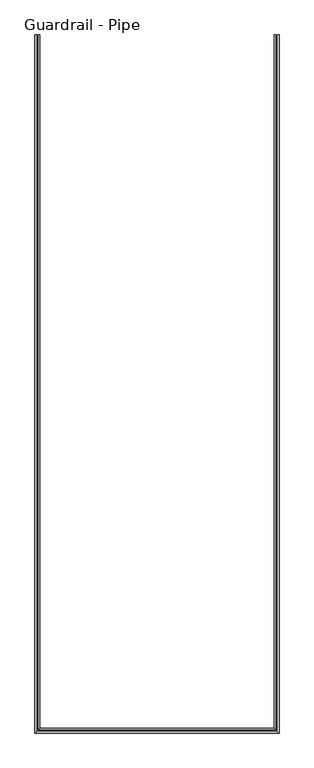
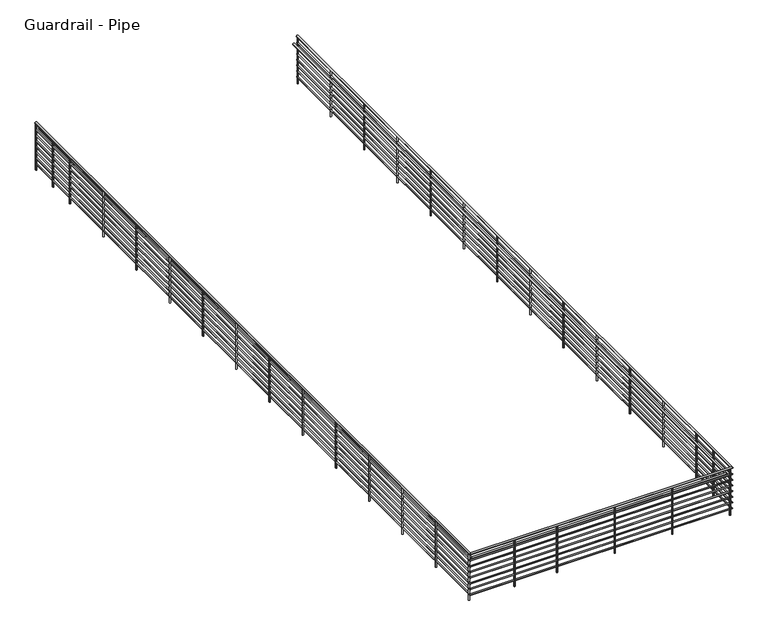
"""IFC4 building model written with IfcOpenShell, lengths in millimetres: railing geometry, Guardrail - Pipe."""

from ifc_helpers import new_model, si_unit, point, frame, frame_2d, origin, place, context, project, spatial, circle_curve, ellipse_curve, trimmed, segment, composite_curve, outline, extrude, source, transform, mapped, element, save
from ifc_brep_helpers import plane_surface, cylinder_surface, advanced_brep


def guardrail_pipe_0f17843e(model_context):
    return source(origin(), model_context, "Body", "SolidModel", [
        advanced_brep(
        [(-4524.1939612, 9152.359643, 13239.75), (-4486.0939612, 9152.359643, 13239.75), (-4524.1939612, -6792.490357, 13239.75), (-4486.0939612, -6754.390357, 13239.75), (1051.1060388, -6792.490357, 13239.75), (1013.0060388, -6754.390357, 13239.75), (1051.1060388, 9152.359643, 13239.75), (1013.0060388, 9152.359643, 13239.75)],
        [
            (0, 1, circle_curve(frame((-4505.1439612, 9152.359643, 13239.75), z_axis=(0.0, 1.0, 0.0), x_axis=(1.0, 0.0, 0.0)), 19.05)),
            (1, 0, circle_curve(frame((-4505.1439612, 9152.359643, 13239.75), z_axis=(0.0, 1.0, 0.0), x_axis=(1.0, 0.0, 0.0)), 19.05)),
            (0, 2),
            (2, 3, ellipse_curve(frame((-4505.1439612, -6773.440357, 13239.75), z_axis=(-0.7071067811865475, 0.7071067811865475, 0.0), x_axis=(0.7071067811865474, 0.7071067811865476, 0.0)), 26.9407684, 19.05)),
            (3, 1),
            (3, 2, ellipse_curve(frame((-4505.1439612, -6773.440357, 13239.75), z_axis=(-0.7071067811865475, 0.7071067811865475, 0.0), x_axis=(0.7071067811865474, 0.7071067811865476, 0.0)), 26.9407684, 19.05)),
            (2, 4),
            (4, 5, ellipse_curve(frame((1032.0560388, -6773.440357, 13239.75), z_axis=(-0.7071067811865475, -0.7071067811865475, 0.0), x_axis=(-0.7071067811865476, 0.7071067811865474, 0.0)), 26.9407684, 19.05)),
            (5, 3),
            (5, 4, ellipse_curve(frame((1032.0560388, -6773.440357, 13239.75), z_axis=(-0.7071067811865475, -0.7071067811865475, 0.0), x_axis=(-0.7071067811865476, 0.7071067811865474, 0.0)), 26.9407684, 19.05)),
            (6, 7, circle_curve(frame((1032.0560388, 9152.359643, 13239.75), z_axis=(0.0, 1.0, 0.0), x_axis=(-1.0, 0.0, 0.0)), 19.05)),
            (7, 6, circle_curve(frame((1032.0560388, 9152.359643, 13239.75), z_axis=(0.0, 1.0, 0.0), x_axis=(-1.0, 0.0, 0.0)), 19.05)),
            (4, 6),
            (7, 5),
        ],
        [
            plane_surface(frame((-4505.1439612, 9152.359643, 13258.8), z_axis=(0.0, 1.0, 0.0), x_axis=(0.0, 0.0, -1.0))),
            cylinder_surface(frame((-4505.1439612, 9152.359643, 13239.75), z_axis=(0.0, 1.0, 0.0), x_axis=(1.0, 0.0, 0.0)), 19.05),
            cylinder_surface(frame((-4505.1439612, -6773.440357, 13239.75), z_axis=(-1.0, 0.0, 0.0), x_axis=(0.0, 1.0, 0.0)), 19.05),
            plane_surface(frame((1032.0560388, 9152.359643, 13258.8), z_axis=(0.0, 1.0, 0.0), x_axis=(0.0, 0.0, 1.0))),
            cylinder_surface(frame((1032.0560388, -6773.440357, 13239.75), z_axis=(0.0, -1.0, 0.0), x_axis=(-1.0, 0.0, 0.0)), 19.05),
        ],
        [
            (0, [[1, 2]]),
            (1, [[-1, 3, 4, 5]]),
            (1, [[-2, -5, 6, -3]]),
            (2, [[-4, 7, 8, 9]]),
            (2, [[-6, -9, 10, -7]]),
            (3, [[11, 12]]),
            (4, [[-8, 13, -12, 14]]),
            (4, [[-10, -14, -11, -13]]),
        ],
    ),
        advanced_brep(
        [(-4517.8439612, 9152.359643, 13093.7), (-4492.4439612, 9152.359643, 13093.7), (-4517.8439612, -6786.140357, 13093.7), (-4492.4439612, -6760.740357, 13093.7), (1044.7560388, -6786.140357, 13093.7), (1019.3560388, -6760.740357, 13093.7), (1044.7560388, 9152.359643, 13093.7), (1019.3560388, 9152.359643, 13093.7)],
        [
            (0, 1, circle_curve(frame((-4505.1439612, 9152.359643, 13093.7), z_axis=(0.0, 1.0, 0.0), x_axis=(1.0, 0.0, 0.0)), 12.7)),
            (1, 0, circle_curve(frame((-4505.1439612, 9152.359643, 13093.7), z_axis=(0.0, 1.0, 0.0), x_axis=(1.0, 0.0, 0.0)), 12.7)),
            (0, 2),
            (2, 3, ellipse_curve(frame((-4505.1439612, -6773.440357, 13093.7), z_axis=(-0.7071067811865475, 0.7071067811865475, 0.0), x_axis=(0.7071067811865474, 0.7071067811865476, 0.0)), 17.9605122, 12.7)),
            (3, 1),
            (3, 2, ellipse_curve(frame((-4505.1439612, -6773.440357, 13093.7), z_axis=(-0.7071067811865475, 0.7071067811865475, 0.0), x_axis=(0.7071067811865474, 0.7071067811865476, 0.0)), 17.9605122, 12.7)),
            (2, 4),
            (4, 5, ellipse_curve(frame((1032.0560388, -6773.440357, 13093.7), z_axis=(-0.7071067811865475, -0.7071067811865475, 0.0), x_axis=(-0.7071067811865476, 0.7071067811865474, 0.0)), 17.9605122, 12.7)),
            (5, 3),
            (5, 4, ellipse_curve(frame((1032.0560388, -6773.440357, 13093.7), z_axis=(-0.7071067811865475, -0.7071067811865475, 0.0), x_axis=(-0.7071067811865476, 0.7071067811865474, 0.0)), 17.9605122, 12.7)),
            (6, 7, circle_curve(frame((1032.0560388, 9152.359643, 13093.7), z_axis=(0.0, 1.0, 0.0), x_axis=(-1.0, 0.0, 0.0)), 12.7)),
            (7, 6, circle_curve(frame((1032.0560388, 9152.359643, 13093.7), z_axis=(0.0, 1.0, 0.0), x_axis=(-1.0, 0.0, 0.0)), 12.7)),
            (4, 6),
            (7, 5),
        ],
        [
            plane_surface(frame((-4505.1439612, 9152.359643, 13106.4), z_axis=(0.0, 1.0, 0.0), x_axis=(0.0, 0.0, -1.0))),
            cylinder_surface(frame((-4505.1439612, 9152.359643, 13093.7), z_axis=(0.0, 1.0, 0.0), x_axis=(1.0, 0.0, 0.0)), 12.7),
            cylinder_surface(frame((-4505.1439612, -6773.440357, 13093.7), z_axis=(-1.0, 0.0, 0.0), x_axis=(0.0, 1.0, 0.0)), 12.7),
            plane_surface(frame((1032.0560388, 9152.359643, 13106.4), z_axis=(0.0, 1.0, 0.0), x_axis=(0.0, 0.0, 1.0))),
            cylinder_surface(frame((1032.0560388, -6773.440357, 13093.7), z_axis=(0.0, -1.0, 0.0), x_axis=(-1.0, 0.0, 0.0)), 12.7),
        ],
        [
            (0, [[1, 2]]),
            (1, [[-1, 3, 4, 5]]),
            (1, [[-2, -5, 6, -3]]),
            (2, [[-4, 7, 8, 9]]),
            (2, [[-6, -9, 10, -7]]),
            (3, [[11, 12]]),
            (4, [[-8, 13, -12, 14]]),
            (4, [[-10, -14, -11, -13]]),
        ],
    ),
        advanced_brep(
        [(-4447.9939612, 9152.359643, 13087.35), (-4409.8939612, 9152.359643, 13087.35), (-4447.9939612, -6716.290357, 13087.35), (-4409.8939612, -6678.190357, 13087.35), (974.9060388, -6716.290357, 13087.35), (936.8060388, -6678.190357, 13087.35), (974.9060388, 9152.359643, 13087.35), (936.8060388, 9152.359643, 13087.35)],
        [
            (0, 1, circle_curve(frame((-4428.9439612, 9152.359643, 13087.35), z_axis=(0.0, 1.0, 0.0), x_axis=(1.0, 0.0, 0.0)), 19.05)),
            (1, 0, circle_curve(frame((-4428.9439612, 9152.359643, 13087.35), z_axis=(0.0, 1.0, 0.0), x_axis=(1.0, 0.0, 0.0)), 19.05)),
            (0, 2),
            (2, 3, ellipse_curve(frame((-4428.9439612, -6697.240357, 13087.35), z_axis=(-0.7071067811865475, 0.7071067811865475, 0.0), x_axis=(0.7071067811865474, 0.7071067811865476, 0.0)), 26.9407684, 19.05)),
            (3, 1),
            (3, 2, ellipse_curve(frame((-4428.9439612, -6697.240357, 13087.35), z_axis=(-0.7071067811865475, 0.7071067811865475, 0.0), x_axis=(0.7071067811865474, 0.7071067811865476, 0.0)), 26.9407684, 19.05)),
            (2, 4),
            (4, 5, ellipse_curve(frame((955.8560388, -6697.240357, 13087.35), z_axis=(-0.7071067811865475, -0.7071067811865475, 0.0), x_axis=(-0.7071067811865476, 0.7071067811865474, 0.0)), 26.9407684, 19.05)),
            (5, 3),
            (5, 4, ellipse_curve(frame((955.8560388, -6697.240357, 13087.35), z_axis=(-0.7071067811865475, -0.7071067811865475, 0.0), x_axis=(-0.7071067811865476, 0.7071067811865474, 0.0)), 26.9407684, 19.05)),
            (6, 7, circle_curve(frame((955.8560388, 9152.359643, 13087.35), z_axis=(0.0, 1.0, 0.0), x_axis=(-1.0, 0.0, 0.0)), 19.05)),
            (7, 6, circle_curve(frame((955.8560388, 9152.359643, 13087.35), z_axis=(0.0, 1.0, 0.0), x_axis=(-1.0, 0.0, 0.0)), 19.05)),
            (4, 6),
            (7, 5),
        ],
        [
            plane_surface(frame((-4428.9439612, 9152.359643, 13106.4), z_axis=(0.0, 1.0, 0.0), x_axis=(0.0, 0.0, -1.0))),
            cylinder_surface(frame((-4428.9439612, 9152.359643, 13087.35), z_axis=(0.0, 1.0, 0.0), x_axis=(1.0, 0.0, 0.0)), 19.05),
            cylinder_surface(frame((-4428.9439612, -6697.240357, 13087.35), z_axis=(-1.0, 0.0, 0.0), x_axis=(0.0, 1.0, 0.0)), 19.05),
            plane_surface(frame((955.8560388, 9152.359643, 13106.4), z_axis=(0.0, 1.0, 0.0), x_axis=(0.0, 0.0, 1.0))),
            cylinder_surface(frame((955.8560388, -6697.240357, 13087.35), z_axis=(0.0, -1.0, 0.0), x_axis=(-1.0, 0.0, 0.0)), 19.05),
        ],
        [
            (0, [[1, 2]]),
            (1, [[-1, 3, 4, 5]]),
            (1, [[-2, -5, 6, -3]]),
            (2, [[-4, 7, 8, 9]]),
            (2, [[-6, -9, 10, -7]]),
            (3, [[11, 12]]),
            (4, [[-8, 13, -12, 14]]),
            (4, [[-10, -14, -11, -13]]),
        ],
    ),
        advanced_brep(
        [(-4517.8439612, 9152.359643, 12966.7), (-4492.4439612, 9152.359643, 12966.7), (-4517.8439612, -6786.140357, 12966.7), (-4492.4439612, -6760.740357, 12966.7), (1044.7560388, -6786.140357, 12966.7), (1019.3560388, -6760.740357, 12966.7), (1044.7560388, 9152.359643, 12966.7), (1019.3560388, 9152.359643, 12966.7)],
        [
            (0, 1, circle_curve(frame((-4505.1439612, 9152.359643, 12966.7), z_axis=(0.0, 1.0, 0.0), x_axis=(1.0, 0.0, 0.0)), 12.7)),
            (1, 0, circle_curve(frame((-4505.1439612, 9152.359643, 12966.7), z_axis=(0.0, 1.0, 0.0), x_axis=(1.0, 0.0, 0.0)), 12.7)),
            (0, 2),
            (2, 3, ellipse_curve(frame((-4505.1439612, -6773.440357, 12966.7), z_axis=(-0.7071067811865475, 0.7071067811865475, 0.0), x_axis=(0.7071067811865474, 0.7071067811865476, 0.0)), 17.9605122, 12.7)),
            (3, 1),
            (3, 2, ellipse_curve(frame((-4505.1439612, -6773.440357, 12966.7), z_axis=(-0.7071067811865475, 0.7071067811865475, 0.0), x_axis=(0.7071067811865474, 0.7071067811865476, 0.0)), 17.9605122, 12.7)),
            (2, 4),
            (4, 5, ellipse_curve(frame((1032.0560388, -6773.440357, 12966.7), z_axis=(-0.7071067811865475, -0.7071067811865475, 0.0), x_axis=(-0.7071067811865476, 0.7071067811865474, 0.0)), 17.9605122, 12.7)),
            (5, 3),
            (5, 4, ellipse_curve(frame((1032.0560388, -6773.440357, 12966.7), z_axis=(-0.7071067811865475, -0.7071067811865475, 0.0), x_axis=(-0.7071067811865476, 0.7071067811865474, 0.0)), 17.9605122, 12.7)),
            (6, 7, circle_curve(frame((1032.0560388, 9152.359643, 12966.7), z_axis=(0.0, 1.0, 0.0), x_axis=(-1.0, 0.0, 0.0)), 12.7)),
            (7, 6, circle_curve(frame((1032.0560388, 9152.359643, 12966.7), z_axis=(0.0, 1.0, 0.0), x_axis=(-1.0, 0.0, 0.0)), 12.7)),
            (4, 6),
            (7, 5),
        ],
        [
            plane_surface(frame((-4505.1439612, 9152.359643, 12979.4), z_axis=(0.0, 1.0, 0.0), x_axis=(0.0, 0.0, -1.0))),
            cylinder_surface(frame((-4505.1439612, 9152.359643, 12966.7), z_axis=(0.0, 1.0, 0.0), x_axis=(1.0, 0.0, 0.0)), 12.7),
            cylinder_surface(frame((-4505.1439612, -6773.440357, 12966.7), z_axis=(-1.0, 0.0, 0.0), x_axis=(0.0, 1.0, 0.0)), 12.7),
            plane_surface(frame((1032.0560388, 9152.359643, 12979.4), z_axis=(0.0, 1.0, 0.0), x_axis=(0.0, 0.0, 1.0))),
            cylinder_surface(frame((1032.0560388, -6773.440357, 12966.7), z_axis=(0.0, -1.0, 0.0), x_axis=(-1.0, 0.0, 0.0)), 12.7),
        ],
        [
            (0, [[1, 2]]),
            (1, [[-1, 3, 4, 5]]),
            (1, [[-2, -5, 6, -3]]),
            (2, [[-4, 7, 8, 9]]),
            (2, [[-6, -9, 10, -7]]),
            (3, [[11, 12]]),
            (4, [[-8, 13, -12, 14]]),
            (4, [[-10, -14, -11, -13]]),
        ],
    ),
        advanced_brep(
        [(-4517.8439612, 9152.359643, 12839.7), (-4492.4439612, 9152.359643, 12839.7), (-4517.8439612, -6786.140357, 12839.7), (-4492.4439612, -6760.740357, 12839.7), (1044.7560388, -6786.140357, 12839.7), (1019.3560388, -6760.740357, 12839.7), (1044.7560388, 9152.359643, 12839.7), (1019.3560388, 9152.359643, 12839.7)],
        [
            (0, 1, circle_curve(frame((-4505.1439612, 9152.359643, 12839.7), z_axis=(0.0, 1.0, 0.0), x_axis=(1.0, 0.0, 0.0)), 12.7)),
            (1, 0, circle_curve(frame((-4505.1439612, 9152.359643, 12839.7), z_axis=(0.0, 1.0, 0.0), x_axis=(1.0, 0.0, 0.0)), 12.7)),
            (0, 2),
            (2, 3, ellipse_curve(frame((-4505.1439612, -6773.440357, 12839.7), z_axis=(-0.7071067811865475, 0.7071067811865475, 0.0), x_axis=(0.7071067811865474, 0.7071067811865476, 0.0)), 17.9605122, 12.7)),
            (3, 1),
            (3, 2, ellipse_curve(frame((-4505.1439612, -6773.440357, 12839.7), z_axis=(-0.7071067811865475, 0.7071067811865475, 0.0), x_axis=(0.7071067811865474, 0.7071067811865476, 0.0)), 17.9605122, 12.7)),
            (2, 4),
            (4, 5, ellipse_curve(frame((1032.0560388, -6773.440357, 12839.7), z_axis=(-0.7071067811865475, -0.7071067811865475, 0.0), x_axis=(-0.7071067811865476, 0.7071067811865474, 0.0)), 17.9605122, 12.7)),
            (5, 3),
            (5, 4, ellipse_curve(frame((1032.0560388, -6773.440357, 12839.7), z_axis=(-0.7071067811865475, -0.7071067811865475, 0.0), x_axis=(-0.7071067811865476, 0.7071067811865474, 0.0)), 17.9605122, 12.7)),
            (6, 7, circle_curve(frame((1032.0560388, 9152.359643, 12839.7), z_axis=(0.0, 1.0, 0.0), x_axis=(-1.0, 0.0, 0.0)), 12.7)),
            (7, 6, circle_curve(frame((1032.0560388, 9152.359643, 12839.7), z_axis=(0.0, 1.0, 0.0), x_axis=(-1.0, 0.0, 0.0)), 12.7)),
            (4, 6),
            (7, 5),
        ],
        [
            plane_surface(frame((-4505.1439612, 9152.359643, 12852.4), z_axis=(0.0, 1.0, 0.0), x_axis=(0.0, 0.0, -1.0))),
            cylinder_surface(frame((-4505.1439612, 9152.359643, 12839.7), z_axis=(0.0, 1.0, 0.0), x_axis=(1.0, 0.0, 0.0)), 12.7),
            cylinder_surface(frame((-4505.1439612, -6773.440357, 12839.7), z_axis=(-1.0, 0.0, 0.0), x_axis=(0.0, 1.0, 0.0)), 12.7),
            plane_surface(frame((1032.0560388, 9152.359643, 12852.4), z_axis=(0.0, 1.0, 0.0), x_axis=(0.0, 0.0, 1.0))),
            cylinder_surface(frame((1032.0560388, -6773.440357, 12839.7), z_axis=(0.0, -1.0, 0.0), x_axis=(-1.0, 0.0, 0.0)), 12.7),
        ],
        [
            (0, [[1, 2]]),
            (1, [[-1, 3, 4, 5]]),
            (1, [[-2, -5, 6, -3]]),
            (2, [[-4, 7, 8, 9]]),
            (2, [[-6, -9, 10, -7]]),
            (3, [[11, 12]]),
            (4, [[-8, 13, -12, 14]]),
            (4, [[-10, -14, -11, -13]]),
        ],
    ),
        advanced_brep(
        [(-4517.8439612, 9152.359643, 12712.7), (-4492.4439612, 9152.359643, 12712.7), (-4517.8439612, -6786.140357, 12712.7), (-4492.4439612, -6760.740357, 12712.7), (1044.7560388, -6786.140357, 12712.7), (1019.3560388, -6760.740357, 12712.7), (1044.7560388, 9152.359643, 12712.7), (1019.3560388, 9152.359643, 12712.7)],
        [
            (0, 1, circle_curve(frame((-4505.1439612, 9152.359643, 12712.7), z_axis=(0.0, 1.0, 0.0), x_axis=(1.0, 0.0, 0.0)), 12.7)),
            (1, 0, circle_curve(frame((-4505.1439612, 9152.359643, 12712.7), z_axis=(0.0, 1.0, 0.0), x_axis=(1.0, 0.0, 0.0)), 12.7)),
            (0, 2),
            (2, 3, ellipse_curve(frame((-4505.1439612, -6773.440357, 12712.7), z_axis=(-0.7071067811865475, 0.7071067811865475, 0.0), x_axis=(0.7071067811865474, 0.7071067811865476, 0.0)), 17.9605122, 12.7)),
            (3, 1),
            (3, 2, ellipse_curve(frame((-4505.1439612, -6773.440357, 12712.7), z_axis=(-0.7071067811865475, 0.7071067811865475, 0.0), x_axis=(0.7071067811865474, 0.7071067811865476, 0.0)), 17.9605122, 12.7)),
            (2, 4),
            (4, 5, ellipse_curve(frame((1032.0560388, -6773.440357, 12712.7), z_axis=(-0.7071067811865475, -0.7071067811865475, 0.0), x_axis=(-0.7071067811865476, 0.7071067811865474, 0.0)), 17.9605122, 12.7)),
            (5, 3),
            (5, 4, ellipse_curve(frame((1032.0560388, -6773.440357, 12712.7), z_axis=(-0.7071067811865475, -0.7071067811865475, 0.0), x_axis=(-0.7071067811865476, 0.7071067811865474, 0.0)), 17.9605122, 12.7)),
            (6, 7, circle_curve(frame((1032.0560388, 9152.359643, 12712.7), z_axis=(0.0, 1.0, 0.0), x_axis=(-1.0, 0.0, 0.0)), 12.7)),
            (7, 6, circle_curve(frame((1032.0560388, 9152.359643, 12712.7), z_axis=(0.0, 1.0, 0.0), x_axis=(-1.0, 0.0, 0.0)), 12.7)),
            (4, 6),
            (7, 5),
        ],
        [
            plane_surface(frame((-4505.1439612, 9152.359643, 12725.4), z_axis=(0.0, 1.0, 0.0), x_axis=(0.0, 0.0, -1.0))),
            cylinder_surface(frame((-4505.1439612, 9152.359643, 12712.7), z_axis=(0.0, 1.0, 0.0), x_axis=(1.0, 0.0, 0.0)), 12.7),
            cylinder_surface(frame((-4505.1439612, -6773.440357, 12712.7), z_axis=(-1.0, 0.0, 0.0), x_axis=(0.0, 1.0, 0.0)), 12.7),
            plane_surface(frame((1032.0560388, 9152.359643, 12725.4), z_axis=(0.0, 1.0, 0.0), x_axis=(0.0, 0.0, 1.0))),
            cylinder_surface(frame((1032.0560388, -6773.440357, 12712.7), z_axis=(0.0, -1.0, 0.0), x_axis=(-1.0, 0.0, 0.0)), 12.7),
        ],
        [
            (0, [[1, 2]]),
            (1, [[-1, 3, 4, 5]]),
            (1, [[-2, -5, 6, -3]]),
            (2, [[-4, 7, 8, 9]]),
            (2, [[-6, -9, 10, -7]]),
            (3, [[11, 12]]),
            (4, [[-8, 13, -12, 14]]),
            (4, [[-10, -14, -11, -13]]),
        ],
    ),
        advanced_brep(
        [(-4517.8439612, 9152.359643, 12585.7), (-4492.4439612, 9152.359643, 12585.7), (-4517.8439612, -6786.140357, 12585.7), (-4492.4439612, -6760.740357, 12585.7), (1044.7560388, -6786.140357, 12585.7), (1019.3560388, -6760.740357, 12585.7), (1044.7560388, 9152.359643, 12585.7), (1019.3560388, 9152.359643, 12585.7)],
        [
            (0, 1, circle_curve(frame((-4505.1439612, 9152.359643, 12585.7), z_axis=(0.0, 1.0, 0.0), x_axis=(1.0, 0.0, 0.0)), 12.7)),
            (1, 0, circle_curve(frame((-4505.1439612, 9152.359643, 12585.7), z_axis=(0.0, 1.0, 0.0), x_axis=(1.0, 0.0, 0.0)), 12.7)),
            (0, 2),
            (2, 3, ellipse_curve(frame((-4505.1439612, -6773.440357, 12585.7), z_axis=(-0.7071067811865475, 0.7071067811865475, 0.0), x_axis=(0.7071067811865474, 0.7071067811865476, 0.0)), 17.9605122, 12.7)),
            (3, 1),
            (3, 2, ellipse_curve(frame((-4505.1439612, -6773.440357, 12585.7), z_axis=(-0.7071067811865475, 0.7071067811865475, 0.0), x_axis=(0.7071067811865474, 0.7071067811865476, 0.0)), 17.9605122, 12.7)),
            (2, 4),
            (4, 5, ellipse_curve(frame((1032.0560388, -6773.440357, 12585.7), z_axis=(-0.7071067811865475, -0.7071067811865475, 0.0), x_axis=(-0.7071067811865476, 0.7071067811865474, 0.0)), 17.9605122, 12.7)),
            (5, 3),
            (5, 4, ellipse_curve(frame((1032.0560388, -6773.440357, 12585.7), z_axis=(-0.7071067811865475, -0.7071067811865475, 0.0), x_axis=(-0.7071067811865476, 0.7071067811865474, 0.0)), 17.9605122, 12.7)),
            (6, 7, circle_curve(frame((1032.0560388, 9152.359643, 12585.7), z_axis=(0.0, 1.0, 0.0), x_axis=(-1.0, 0.0, 0.0)), 12.7)),
            (7, 6, circle_curve(frame((1032.0560388, 9152.359643, 12585.7), z_axis=(0.0, 1.0, 0.0), x_axis=(-1.0, 0.0, 0.0)), 12.7)),
            (4, 6),
            (7, 5),
        ],
        [
            plane_surface(frame((-4505.1439612, 9152.359643, 12598.4), z_axis=(0.0, 1.0, 0.0), x_axis=(0.0, 0.0, -1.0))),
            cylinder_surface(frame((-4505.1439612, 9152.359643, 12585.7), z_axis=(0.0, 1.0, 0.0), x_axis=(1.0, 0.0, 0.0)), 12.7),
            cylinder_surface(frame((-4505.1439612, -6773.440357, 12585.7), z_axis=(-1.0, 0.0, 0.0), x_axis=(0.0, 1.0, 0.0)), 12.7),
            plane_surface(frame((1032.0560388, 9152.359643, 12598.4), z_axis=(0.0, 1.0, 0.0), x_axis=(0.0, 0.0, 1.0))),
            cylinder_surface(frame((1032.0560388, -6773.440357, 12585.7), z_axis=(0.0, -1.0, 0.0), x_axis=(-1.0, 0.0, 0.0)), 12.7),
        ],
        [
            (0, [[1, 2]]),
            (1, [[-1, 3, 4, 5]]),
            (1, [[-2, -5, 6, -3]]),
            (2, [[-4, 7, 8, 9]]),
            (2, [[-6, -9, 10, -7]]),
            (3, [[11, 12]]),
            (4, [[-8, 13, -12, 14]]),
            (4, [[-10, -14, -11, -13]]),
        ],
    ),
        advanced_brep(
        [(-4517.8439612, 9152.359643, 12458.7), (-4492.4439612, 9152.359643, 12458.7), (-4517.8439612, -6786.140357, 12458.7), (-4492.4439612, -6760.740357, 12458.7), (1044.7560388, -6786.140357, 12458.7), (1019.3560388, -6760.740357, 12458.7), (1044.7560388, 9152.359643, 12458.7), (1019.3560388, 9152.359643, 12458.7)],
        [
            (0, 1, circle_curve(frame((-4505.1439612, 9152.359643, 12458.7), z_axis=(0.0, 1.0, 0.0), x_axis=(1.0, 0.0, 0.0)), 12.7)),
            (1, 0, circle_curve(frame((-4505.1439612, 9152.359643, 12458.7), z_axis=(0.0, 1.0, 0.0), x_axis=(1.0, 0.0, 0.0)), 12.7)),
            (0, 2),
            (2, 3, ellipse_curve(frame((-4505.1439612, -6773.440357, 12458.7), z_axis=(-0.7071067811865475, 0.7071067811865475, 0.0), x_axis=(0.7071067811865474, 0.7071067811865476, 0.0)), 17.9605122, 12.7)),
            (3, 1),
            (3, 2, ellipse_curve(frame((-4505.1439612, -6773.440357, 12458.7), z_axis=(-0.7071067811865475, 0.7071067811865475, 0.0), x_axis=(0.7071067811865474, 0.7071067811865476, 0.0)), 17.9605122, 12.7)),
            (2, 4),
            (4, 5, ellipse_curve(frame((1032.0560388, -6773.440357, 12458.7), z_axis=(-0.7071067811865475, -0.7071067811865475, 0.0), x_axis=(-0.7071067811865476, 0.7071067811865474, 0.0)), 17.9605122, 12.7)),
            (5, 3),
            (5, 4, ellipse_curve(frame((1032.0560388, -6773.440357, 12458.7), z_axis=(-0.7071067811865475, -0.7071067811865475, 0.0), x_axis=(-0.7071067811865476, 0.7071067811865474, 0.0)), 17.9605122, 12.7)),
            (6, 7, circle_curve(frame((1032.0560388, 9152.359643, 12458.7), z_axis=(0.0, 1.0, 0.0), x_axis=(-1.0, 0.0, 0.0)), 12.7)),
            (7, 6, circle_curve(frame((1032.0560388, 9152.359643, 12458.7), z_axis=(0.0, 1.0, 0.0), x_axis=(-1.0, 0.0, 0.0)), 12.7)),
            (4, 6),
            (7, 5),
        ],
        [
            plane_surface(frame((-4505.1439612, 9152.359643, 12471.4), z_axis=(0.0, 1.0, 0.0), x_axis=(0.0, 0.0, -1.0))),
            cylinder_surface(frame((-4505.1439612, 9152.359643, 12458.7), z_axis=(0.0, 1.0, 0.0), x_axis=(1.0, 0.0, 0.0)), 12.7),
            cylinder_surface(frame((-4505.1439612, -6773.440357, 12458.7), z_axis=(-1.0, 0.0, 0.0), x_axis=(0.0, 1.0, 0.0)), 12.7),
            plane_surface(frame((1032.0560388, 9152.359643, 12471.4), z_axis=(0.0, 1.0, 0.0), x_axis=(0.0, 0.0, 1.0))),
            cylinder_surface(frame((1032.0560388, -6773.440357, 12458.7), z_axis=(0.0, -1.0, 0.0), x_axis=(-1.0, 0.0, 0.0)), 12.7),
        ],
        [
            (0, [[1, 2]]),
            (1, [[-1, 3, 4, 5]]),
            (1, [[-2, -5, 6, -3]]),
            (2, [[-4, 7, 8, 9]]),
            (2, [[-6, -9, 10, -7]]),
            (3, [[11, 12]]),
            (4, [[-8, 13, -12, 14]]),
            (4, [[-10, -14, -11, -13]]),
        ],
    ),
        advanced_brep(
        [(-4517.8439612, 9152.359643, 12331.7), (-4492.4439612, 9152.359643, 12331.7), (-4517.8439612, -6786.140357, 12331.7), (-4492.4439612, -6760.740357, 12331.7), (1044.7560388, -6786.140357, 12331.7), (1019.3560388, -6760.740357, 12331.7), (1044.7560388, 9152.359643, 12331.7), (1019.3560388, 9152.359643, 12331.7)],
        [
            (0, 1, circle_curve(frame((-4505.1439612, 9152.359643, 12331.7), z_axis=(0.0, 1.0, 0.0), x_axis=(1.0, 0.0, 0.0)), 12.7)),
            (1, 0, circle_curve(frame((-4505.1439612, 9152.359643, 12331.7), z_axis=(0.0, 1.0, 0.0), x_axis=(1.0, 0.0, 0.0)), 12.7)),
            (0, 2),
            (2, 3, ellipse_curve(frame((-4505.1439612, -6773.440357, 12331.7), z_axis=(-0.7071067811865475, 0.7071067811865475, 0.0), x_axis=(0.7071067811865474, 0.7071067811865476, 0.0)), 17.9605122, 12.7)),
            (3, 1),
            (3, 2, ellipse_curve(frame((-4505.1439612, -6773.440357, 12331.7), z_axis=(-0.7071067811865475, 0.7071067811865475, 0.0), x_axis=(0.7071067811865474, 0.7071067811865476, 0.0)), 17.9605122, 12.7)),
            (2, 4),
            (4, 5, ellipse_curve(frame((1032.0560388, -6773.440357, 12331.7), z_axis=(-0.7071067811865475, -0.7071067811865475, 0.0), x_axis=(-0.7071067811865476, 0.7071067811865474, 0.0)), 17.9605122, 12.7)),
            (5, 3),
            (5, 4, ellipse_curve(frame((1032.0560388, -6773.440357, 12331.7), z_axis=(-0.7071067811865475, -0.7071067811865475, 0.0), x_axis=(-0.7071067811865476, 0.7071067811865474, 0.0)), 17.9605122, 12.7)),
            (6, 7, circle_curve(frame((1032.0560388, 9152.359643, 12331.7), z_axis=(0.0, 1.0, 0.0), x_axis=(-1.0, 0.0, 0.0)), 12.7)),
            (7, 6, circle_curve(frame((1032.0560388, 9152.359643, 12331.7), z_axis=(0.0, 1.0, 0.0), x_axis=(-1.0, 0.0, 0.0)), 12.7)),
            (4, 6),
            (7, 5),
        ],
        [
            plane_surface(frame((-4505.1439612, 9152.359643, 12344.4), z_axis=(0.0, 1.0, 0.0), x_axis=(0.0, 0.0, -1.0))),
            cylinder_surface(frame((-4505.1439612, 9152.359643, 12331.7), z_axis=(0.0, 1.0, 0.0), x_axis=(1.0, 0.0, 0.0)), 12.7),
            cylinder_surface(frame((-4505.1439612, -6773.440357, 12331.7), z_axis=(-1.0, 0.0, 0.0), x_axis=(0.0, 1.0, 0.0)), 12.7),
            plane_surface(frame((1032.0560388, 9152.359643, 12344.4), z_axis=(0.0, 1.0, 0.0), x_axis=(0.0, 0.0, 1.0))),
            cylinder_surface(frame((1032.0560388, -6773.440357, 12331.7), z_axis=(0.0, -1.0, 0.0), x_axis=(-1.0, 0.0, 0.0)), 12.7),
        ],
        [
            (0, [[1, 2]]),
            (1, [[-1, 3, 4, 5]]),
            (1, [[-2, -5, 6, -3]]),
            (2, [[-4, 7, 8, 9]]),
            (2, [[-6, -9, 10, -7]]),
            (3, [[11, 12]]),
            (4, [[-8, 13, -12, 14]]),
            (4, [[-10, -14, -11, -13]]),
        ],
    ),
        extrude(outline(composite_curve([segment(trimmed(circle_curve(frame_2d((1032.0560388, 9139.9780585)), 12.7), [point((1044.7560388, 9139.9780585))], [point((1019.3560388, 9139.9780585))], False, "CARTESIAN"), True, "CONTINUOUS"), segment(trimmed(circle_curve(frame_2d((1032.0560388, 9139.9780585)), 12.7), [point((1019.3560388, 9139.9780585))], [point((1044.7560388, 9139.9780585))], False, "CARTESIAN"), True, "CONTINUOUS")], self_intersect=False)), frame((0.0, 0.0, 12192.0), z_axis=(0.0, 0.0, 1.0), x_axis=(1.0, 0.0, 0.0)), (0.0, 0.0, 1.0), 1028.7),
        extrude(outline(composite_curve([segment(trimmed(circle_curve(frame_2d((1032.0560388, 7920.7780585)), 12.7), [point((1044.7560388, 7920.7780585))], [point((1019.3560388, 7920.7780585))], False, "CARTESIAN"), True, "CONTINUOUS"), segment(trimmed(circle_curve(frame_2d((1032.0560388, 7920.7780585)), 12.7), [point((1019.3560388, 7920.7780585))], [point((1044.7560388, 7920.7780585))], False, "CARTESIAN"), True, "CONTINUOUS")], self_intersect=False)), frame((0.0, 0.0, 12192.0), z_axis=(0.0, 0.0, 1.0), x_axis=(1.0, 0.0, 0.0)), (0.0, 0.0, 1.0), 1028.7),
        extrude(outline(composite_curve([segment(trimmed(circle_curve(frame_2d((1032.0560388, 6701.5780585)), 12.7), [point((1044.7560388, 6701.5780585))], [point((1019.3560388, 6701.5780585))], False, "CARTESIAN"), True, "CONTINUOUS"), segment(trimmed(circle_curve(frame_2d((1032.0560388, 6701.5780585)), 12.7), [point((1019.3560388, 6701.5780585))], [point((1044.7560388, 6701.5780585))], False, "CARTESIAN"), True, "CONTINUOUS")], self_intersect=False)), frame((0.0, 0.0, 12192.0), z_axis=(0.0, 0.0, 1.0), x_axis=(1.0, 0.0, 0.0)), (0.0, 0.0, 1.0), 1028.7),
        extrude(outline(composite_curve([segment(trimmed(circle_curve(frame_2d((1032.0560388, 5482.3780585)), 12.7), [point((1044.7560388, 5482.3780585))], [point((1019.3560388, 5482.3780585))], False, "CARTESIAN"), True, "CONTINUOUS"), segment(trimmed(circle_curve(frame_2d((1032.0560388, 5482.3780585)), 12.7), [point((1019.3560388, 5482.3780585))], [point((1044.7560388, 5482.3780585))], False, "CARTESIAN"), True, "CONTINUOUS")], self_intersect=False)), frame((0.0, 0.0, 12192.0), z_axis=(0.0, 0.0, 1.0), x_axis=(1.0, 0.0, 0.0)), (0.0, 0.0, 1.0), 1028.7),
        extrude(outline(composite_curve([segment(trimmed(circle_curve(frame_2d((1032.0560388, 4263.1780585)), 12.7), [point((1044.7560388, 4263.1780585))], [point((1019.3560388, 4263.1780585))], False, "CARTESIAN"), True, "CONTINUOUS"), segment(trimmed(circle_curve(frame_2d((1032.0560388, 4263.1780585)), 12.7), [point((1019.3560388, 4263.1780585))], [point((1044.7560388, 4263.1780585))], False, "CARTESIAN"), True, "CONTINUOUS")], self_intersect=False)), frame((0.0, 0.0, 12192.0), z_axis=(0.0, 0.0, 1.0), x_axis=(1.0, 0.0, 0.0)), (0.0, 0.0, 1.0), 1028.7),
        extrude(outline(composite_curve([segment(trimmed(circle_curve(frame_2d((1032.0560388, 3043.9780585)), 12.7), [point((1044.7560388, 3043.9780585))], [point((1019.3560388, 3043.9780585))], False, "CARTESIAN"), True, "CONTINUOUS"), segment(trimmed(circle_curve(frame_2d((1032.0560388, 3043.9780585)), 12.7), [point((1019.3560388, 3043.9780585))], [point((1044.7560388, 3043.9780585))], False, "CARTESIAN"), True, "CONTINUOUS")], self_intersect=False)), frame((0.0, 0.0, 12192.0), z_axis=(0.0, 0.0, 1.0), x_axis=(1.0, 0.0, 0.0)), (0.0, 0.0, 1.0), 1028.7),
        extrude(outline(composite_curve([segment(trimmed(circle_curve(frame_2d((1032.0560388, 1824.7780585)), 12.7), [point((1044.7560388, 1824.7780585))], [point((1019.3560388, 1824.7780585))], False, "CARTESIAN"), True, "CONTINUOUS"), segment(trimmed(circle_curve(frame_2d((1032.0560388, 1824.7780585)), 12.7), [point((1019.3560388, 1824.7780585))], [point((1044.7560388, 1824.7780585))], False, "CARTESIAN"), True, "CONTINUOUS")], self_intersect=False)), frame((0.0, 0.0, 12192.0), z_axis=(0.0, 0.0, 1.0), x_axis=(1.0, 0.0, 0.0)), (0.0, 0.0, 1.0), 1028.7),
        extrude(outline(composite_curve([segment(trimmed(circle_curve(frame_2d((1032.0560388, 605.5780585)), 12.7), [point((1044.7560388, 605.5780585))], [point((1019.3560388, 605.5780585))], False, "CARTESIAN"), True, "CONTINUOUS"), segment(trimmed(circle_curve(frame_2d((1032.0560388, 605.5780585)), 12.7), [point((1019.3560388, 605.5780585))], [point((1044.7560388, 605.5780585))], False, "CARTESIAN"), True, "CONTINUOUS")], self_intersect=False)), frame((0.0, 0.0, 12192.0), z_axis=(0.0, 0.0, 1.0), x_axis=(1.0, 0.0, 0.0)), (0.0, 0.0, 1.0), 1028.7),
        extrude(outline(composite_curve([segment(trimmed(circle_curve(frame_2d((1032.0560388, -613.6219415)), 12.7), [point((1044.7560388, -613.6219415))], [point((1019.3560388, -613.6219415))], False, "CARTESIAN"), True, "CONTINUOUS"), segment(trimmed(circle_curve(frame_2d((1032.0560388, -613.6219415)), 12.7), [point((1019.3560388, -613.6219415))], [point((1044.7560388, -613.6219415))], False, "CARTESIAN"), True, "CONTINUOUS")], self_intersect=False)), frame((0.0, 0.0, 12192.0), z_axis=(0.0, 0.0, 1.0), x_axis=(1.0, 0.0, 0.0)), (0.0, 0.0, 1.0), 1028.7),
        extrude(outline(composite_curve([segment(trimmed(circle_curve(frame_2d((1032.0560388, -1832.8219415)), 12.7), [point((1044.7560388, -1832.8219415))], [point((1019.3560388, -1832.8219415))], False, "CARTESIAN"), True, "CONTINUOUS"), segment(trimmed(circle_curve(frame_2d((1032.0560388, -1832.8219415)), 12.7), [point((1019.3560388, -1832.8219415))], [point((1044.7560388, -1832.8219415))], False, "CARTESIAN"), True, "CONTINUOUS")], self_intersect=False)), frame((0.0, 0.0, 12192.0), z_axis=(0.0, 0.0, 1.0), x_axis=(1.0, 0.0, 0.0)), (0.0, 0.0, 1.0), 1028.7),
        extrude(outline(composite_curve([segment(trimmed(circle_curve(frame_2d((1032.0560388, -3052.0219415)), 12.7), [point((1044.7560388, -3052.0219415))], [point((1019.3560388, -3052.0219415))], False, "CARTESIAN"), True, "CONTINUOUS"), segment(trimmed(circle_curve(frame_2d((1032.0560388, -3052.0219415)), 12.7), [point((1019.3560388, -3052.0219415))], [point((1044.7560388, -3052.0219415))], False, "CARTESIAN"), True, "CONTINUOUS")], self_intersect=False)), frame((0.0, 0.0, 12192.0), z_axis=(0.0, 0.0, 1.0), x_axis=(1.0, 0.0, 0.0)), (0.0, 0.0, 1.0), 1028.7),
        extrude(outline(composite_curve([segment(trimmed(circle_curve(frame_2d((1032.0560388, -4271.2219415)), 12.7), [point((1044.7560388, -4271.2219415))], [point((1019.3560388, -4271.2219415))], False, "CARTESIAN"), True, "CONTINUOUS"), segment(trimmed(circle_curve(frame_2d((1032.0560388, -4271.2219415)), 12.7), [point((1019.3560388, -4271.2219415))], [point((1044.7560388, -4271.2219415))], False, "CARTESIAN"), True, "CONTINUOUS")], self_intersect=False)), frame((0.0, 0.0, 12192.0), z_axis=(0.0, 0.0, 1.0), x_axis=(1.0, 0.0, 0.0)), (0.0, 0.0, 1.0), 1028.7),
        extrude(outline(composite_curve([segment(trimmed(circle_curve(frame_2d((1032.0560388, -5490.4219415)), 12.7), [point((1044.7560388, -5490.4219415))], [point((1019.3560388, -5490.4219415))], False, "CARTESIAN"), True, "CONTINUOUS"), segment(trimmed(circle_curve(frame_2d((1032.0560388, -5490.4219415)), 12.7), [point((1019.3560388, -5490.4219415))], [point((1044.7560388, -5490.4219415))], False, "CARTESIAN"), True, "CONTINUOUS")], self_intersect=False)), frame((0.0, 0.0, 12192.0), z_axis=(0.0, 0.0, 1.0), x_axis=(1.0, 0.0, 0.0)), (0.0, 0.0, 1.0), 1028.7),
        extrude(outline(composite_curve([segment(trimmed(circle_curve(frame_2d((1032.0560388, -6113.040357)), 12.7), [point((1044.7560388, -6113.040357))], [point((1019.3560388, -6113.040357))], False, "CARTESIAN"), True, "CONTINUOUS"), segment(trimmed(circle_curve(frame_2d((1032.0560388, -6113.040357)), 12.7), [point((1019.3560388, -6113.040357))], [point((1044.7560388, -6113.040357))], False, "CARTESIAN"), True, "CONTINUOUS")], self_intersect=False)), frame((0.0, 0.0, 12192.0), z_axis=(0.0, 0.0, 1.0), x_axis=(1.0, 0.0, 0.0)), (0.0, 0.0, 1.0), 1028.7),
        extrude(outline(composite_curve([segment(trimmed(circle_curve(frame_2d((994.2744543, -6773.440357)), 12.7), [point((994.2744543, -6786.140357))], [point((994.2744543, -6760.740357))], False, "CARTESIAN"), True, "CONTINUOUS"), segment(trimmed(circle_curve(frame_2d((994.2744543, -6773.440357)), 12.7), [point((994.2744543, -6760.740357))], [point((994.2744543, -6786.140357))], False, "CARTESIAN"), True, "CONTINUOUS")], self_intersect=False)), frame((0.0, 0.0, 12192.0), z_axis=(0.0, 0.0, 1.0), x_axis=(1.0, 0.0, 0.0)), (0.0, 0.0, 1.0), 1028.7),
        extrude(outline(composite_curve([segment(trimmed(circle_curve(frame_2d((-224.9255457, -6773.440357)), 12.7), [point((-224.9255457, -6786.140357))], [point((-224.9255457, -6760.740357))], False, "CARTESIAN"), True, "CONTINUOUS"), segment(trimmed(circle_curve(frame_2d((-224.9255457, -6773.440357)), 12.7), [point((-224.9255457, -6760.740357))], [point((-224.9255457, -6786.140357))], False, "CARTESIAN"), True, "CONTINUOUS")], self_intersect=False)), frame((0.0, 0.0, 12192.0), z_axis=(0.0, 0.0, 1.0), x_axis=(1.0, 0.0, 0.0)), (0.0, 0.0, 1.0), 1028.7),
        extrude(outline(composite_curve([segment(trimmed(circle_curve(frame_2d((-1444.1255457, -6773.440357)), 12.7), [point((-1444.1255457, -6786.140357))], [point((-1444.1255457, -6760.740357))], False, "CARTESIAN"), True, "CONTINUOUS"), segment(trimmed(circle_curve(frame_2d((-1444.1255457, -6773.440357)), 12.7), [point((-1444.1255457, -6760.740357))], [point((-1444.1255457, -6786.140357))], False, "CARTESIAN"), True, "CONTINUOUS")], self_intersect=False)), frame((0.0, 0.0, 12192.0), z_axis=(0.0, 0.0, 1.0), x_axis=(1.0, 0.0, 0.0)), (0.0, 0.0, 1.0), 1028.7),
        extrude(outline(composite_curve([segment(trimmed(circle_curve(frame_2d((-2663.3255457, -6773.440357)), 12.7), [point((-2663.3255457, -6786.140357))], [point((-2663.3255457, -6760.740357))], False, "CARTESIAN"), True, "CONTINUOUS"), segment(trimmed(circle_curve(frame_2d((-2663.3255457, -6773.440357)), 12.7), [point((-2663.3255457, -6760.740357))], [point((-2663.3255457, -6786.140357))], False, "CARTESIAN"), True, "CONTINUOUS")], self_intersect=False)), frame((0.0, 0.0, 12192.0), z_axis=(0.0, 0.0, 1.0), x_axis=(1.0, 0.0, 0.0)), (0.0, 0.0, 1.0), 1028.7),
        extrude(outline(composite_curve([segment(trimmed(circle_curve(frame_2d((-3565.3439612, -6773.440357)), 12.7), [point((-3565.3439612, -6786.140357))], [point((-3565.3439612, -6760.740357))], False, "CARTESIAN"), True, "CONTINUOUS"), segment(trimmed(circle_curve(frame_2d((-3565.3439612, -6773.440357)), 12.7), [point((-3565.3439612, -6760.740357))], [point((-3565.3439612, -6786.140357))], False, "CARTESIAN"), True, "CONTINUOUS")], self_intersect=False)), frame((0.0, 0.0, 12192.0), z_axis=(0.0, 0.0, 1.0), x_axis=(1.0, 0.0, 0.0)), (0.0, 0.0, 1.0), 1028.7),
        extrude(outline(composite_curve([segment(trimmed(circle_curve(frame_2d((-4505.1439612, -6735.6587726)), 12.7), [point((-4517.8439612, -6735.6587726))], [point((-4492.4439612, -6735.6587726))], False, "CARTESIAN"), True, "CONTINUOUS"), segment(trimmed(circle_curve(frame_2d((-4505.1439612, -6735.6587726)), 12.7), [point((-4492.4439612, -6735.6587726))], [point((-4517.8439612, -6735.6587726))], False, "CARTESIAN"), True, "CONTINUOUS")], self_intersect=False)), frame((0.0, 0.0, 12192.0), z_axis=(0.0, 0.0, 1.0), x_axis=(1.0, 0.0, 0.0)), (0.0, 0.0, 1.0), 1028.7),
        extrude(outline(composite_curve([segment(trimmed(circle_curve(frame_2d((-4505.1439612, -5516.4587726)), 12.7), [point((-4517.8439612, -5516.4587726))], [point((-4492.4439612, -5516.4587726))], False, "CARTESIAN"), True, "CONTINUOUS"), segment(trimmed(circle_curve(frame_2d((-4505.1439612, -5516.4587726)), 12.7), [point((-4492.4439612, -5516.4587726))], [point((-4517.8439612, -5516.4587726))], False, "CARTESIAN"), True, "CONTINUOUS")], self_intersect=False)), frame((0.0, 0.0, 12192.0), z_axis=(0.0, 0.0, 1.0), x_axis=(1.0, 0.0, 0.0)), (0.0, 0.0, 1.0), 1028.7),
        extrude(outline(composite_curve([segment(trimmed(circle_curve(frame_2d((-4505.1439612, -4297.2587726)), 12.7), [point((-4517.8439612, -4297.2587726))], [point((-4492.4439612, -4297.2587726))], False, "CARTESIAN"), True, "CONTINUOUS"), segment(trimmed(circle_curve(frame_2d((-4505.1439612, -4297.2587726)), 12.7), [point((-4492.4439612, -4297.2587726))], [point((-4517.8439612, -4297.2587726))], False, "CARTESIAN"), True, "CONTINUOUS")], self_intersect=False)), frame((0.0, 0.0, 12192.0), z_axis=(0.0, 0.0, 1.0), x_axis=(1.0, 0.0, 0.0)), (0.0, 0.0, 1.0), 1028.7),
        extrude(outline(composite_curve([segment(trimmed(circle_curve(frame_2d((-4505.1439612, -3078.0587726)), 12.7), [point((-4517.8439612, -3078.0587726))], [point((-4492.4439612, -3078.0587726))], False, "CARTESIAN"), True, "CONTINUOUS"), segment(trimmed(circle_curve(frame_2d((-4505.1439612, -3078.0587726)), 12.7), [point((-4492.4439612, -3078.0587726))], [point((-4517.8439612, -3078.0587726))], False, "CARTESIAN"), True, "CONTINUOUS")], self_intersect=False)), frame((0.0, 0.0, 12192.0), z_axis=(0.0, 0.0, 1.0), x_axis=(1.0, 0.0, 0.0)), (0.0, 0.0, 1.0), 1028.7),
        extrude(outline(composite_curve([segment(trimmed(circle_curve(frame_2d((-4505.1439612, -1858.8587726)), 12.7), [point((-4517.8439612, -1858.8587726))], [point((-4492.4439612, -1858.8587726))], False, "CARTESIAN"), True, "CONTINUOUS"), segment(trimmed(circle_curve(frame_2d((-4505.1439612, -1858.8587726)), 12.7), [point((-4492.4439612, -1858.8587726))], [point((-4517.8439612, -1858.8587726))], False, "CARTESIAN"), True, "CONTINUOUS")], self_intersect=False)), frame((0.0, 0.0, 12192.0), z_axis=(0.0, 0.0, 1.0), x_axis=(1.0, 0.0, 0.0)), (0.0, 0.0, 1.0), 1028.7),
        extrude(outline(composite_curve([segment(trimmed(circle_curve(frame_2d((-4505.1439612, -639.6587726)), 12.7), [point((-4517.8439612, -639.6587726))], [point((-4492.4439612, -639.6587726))], False, "CARTESIAN"), True, "CONTINUOUS"), segment(trimmed(circle_curve(frame_2d((-4505.1439612, -639.6587726)), 12.7), [point((-4492.4439612, -639.6587726))], [point((-4517.8439612, -639.6587726))], False, "CARTESIAN"), True, "CONTINUOUS")], self_intersect=False)), frame((0.0, 0.0, 12192.0), z_axis=(0.0, 0.0, 1.0), x_axis=(1.0, 0.0, 0.0)), (0.0, 0.0, 1.0), 1028.7),
        extrude(outline(composite_curve([segment(trimmed(circle_curve(frame_2d((-4505.1439612, 579.5412274)), 12.7), [point((-4517.8439612, 579.5412274))], [point((-4492.4439612, 579.5412274))], False, "CARTESIAN"), True, "CONTINUOUS"), segment(trimmed(circle_curve(frame_2d((-4505.1439612, 579.5412274)), 12.7), [point((-4492.4439612, 579.5412274))], [point((-4517.8439612, 579.5412274))], False, "CARTESIAN"), True, "CONTINUOUS")], self_intersect=False)), frame((0.0, 0.0, 12192.0), z_axis=(0.0, 0.0, 1.0), x_axis=(1.0, 0.0, 0.0)), (0.0, 0.0, 1.0), 1028.7),
        extrude(outline(composite_curve([segment(trimmed(circle_curve(frame_2d((-4505.1439612, 1798.7412274)), 12.7), [point((-4517.8439612, 1798.7412274))], [point((-4492.4439612, 1798.7412274))], False, "CARTESIAN"), True, "CONTINUOUS"), segment(trimmed(circle_curve(frame_2d((-4505.1439612, 1798.7412274)), 12.7), [point((-4492.4439612, 1798.7412274))], [point((-4517.8439612, 1798.7412274))], False, "CARTESIAN"), True, "CONTINUOUS")], self_intersect=False)), frame((0.0, 0.0, 12192.0), z_axis=(0.0, 0.0, 1.0), x_axis=(1.0, 0.0, 0.0)), (0.0, 0.0, 1.0), 1028.7),
        extrude(outline(composite_curve([segment(trimmed(circle_curve(frame_2d((-4505.1439612, 3017.9412274)), 12.7), [point((-4517.8439612, 3017.9412274))], [point((-4492.4439612, 3017.9412274))], False, "CARTESIAN"), True, "CONTINUOUS"), segment(trimmed(circle_curve(frame_2d((-4505.1439612, 3017.9412274)), 12.7), [point((-4492.4439612, 3017.9412274))], [point((-4517.8439612, 3017.9412274))], False, "CARTESIAN"), True, "CONTINUOUS")], self_intersect=False)), frame((0.0, 0.0, 12192.0), z_axis=(0.0, 0.0, 1.0), x_axis=(1.0, 0.0, 0.0)), (0.0, 0.0, 1.0), 1028.7),
        extrude(outline(composite_curve([segment(trimmed(circle_curve(frame_2d((-4505.1439612, 4237.1412274)), 12.7), [point((-4517.8439612, 4237.1412274))], [point((-4492.4439612, 4237.1412274))], False, "CARTESIAN"), True, "CONTINUOUS"), segment(trimmed(circle_curve(frame_2d((-4505.1439612, 4237.1412274)), 12.7), [point((-4492.4439612, 4237.1412274))], [point((-4517.8439612, 4237.1412274))], False, "CARTESIAN"), True, "CONTINUOUS")], self_intersect=False)), frame((0.0, 0.0, 12192.0), z_axis=(0.0, 0.0, 1.0), x_axis=(1.0, 0.0, 0.0)), (0.0, 0.0, 1.0), 1028.7),
        extrude(outline(composite_curve([segment(trimmed(circle_curve(frame_2d((-4505.1439612, 5456.3412274)), 12.7), [point((-4517.8439612, 5456.3412274))], [point((-4492.4439612, 5456.3412274))], False, "CARTESIAN"), True, "CONTINUOUS"), segment(trimmed(circle_curve(frame_2d((-4505.1439612, 5456.3412274)), 12.7), [point((-4492.4439612, 5456.3412274))], [point((-4517.8439612, 5456.3412274))], False, "CARTESIAN"), True, "CONTINUOUS")], self_intersect=False)), frame((0.0, 0.0, 12192.0), z_axis=(0.0, 0.0, 1.0), x_axis=(1.0, 0.0, 0.0)), (0.0, 0.0, 1.0), 1028.7),
        extrude(outline(composite_curve([segment(trimmed(circle_curve(frame_2d((-4505.1439612, 6675.5412274)), 12.7), [point((-4517.8439612, 6675.5412274))], [point((-4492.4439612, 6675.5412274))], False, "CARTESIAN"), True, "CONTINUOUS"), segment(trimmed(circle_curve(frame_2d((-4505.1439612, 6675.5412274)), 12.7), [point((-4492.4439612, 6675.5412274))], [point((-4517.8439612, 6675.5412274))], False, "CARTESIAN"), True, "CONTINUOUS")], self_intersect=False)), frame((0.0, 0.0, 12192.0), z_axis=(0.0, 0.0, 1.0), x_axis=(1.0, 0.0, 0.0)), (0.0, 0.0, 1.0), 1028.7),
        extrude(outline(composite_curve([segment(trimmed(circle_curve(frame_2d((-4505.1439612, 7894.7412274)), 12.7), [point((-4517.8439612, 7894.7412274))], [point((-4492.4439612, 7894.7412274))], False, "CARTESIAN"), True, "CONTINUOUS"), segment(trimmed(circle_curve(frame_2d((-4505.1439612, 7894.7412274)), 12.7), [point((-4492.4439612, 7894.7412274))], [point((-4517.8439612, 7894.7412274))], False, "CARTESIAN"), True, "CONTINUOUS")], self_intersect=False)), frame((0.0, 0.0, 12192.0), z_axis=(0.0, 0.0, 1.0), x_axis=(1.0, 0.0, 0.0)), (0.0, 0.0, 1.0), 1028.7),
        extrude(outline(composite_curve([segment(trimmed(circle_curve(frame_2d((-4505.1439612, 8517.359643)), 12.7), [point((-4517.8439612, 8517.359643))], [point((-4492.4439612, 8517.359643))], False, "CARTESIAN"), True, "CONTINUOUS"), segment(trimmed(circle_curve(frame_2d((-4505.1439612, 8517.359643)), 12.7), [point((-4492.4439612, 8517.359643))], [point((-4517.8439612, 8517.359643))], False, "CARTESIAN"), True, "CONTINUOUS")], self_intersect=False)), frame((0.0, 0.0, 12192.0), z_axis=(0.0, 0.0, 1.0), x_axis=(1.0, 0.0, 0.0)), (0.0, 0.0, 1.0), 1028.7),
        extrude(outline(composite_curve([segment(trimmed(circle_curve(frame_2d((-4505.1439612, 9139.9780585)), 12.7), [point((-4517.8439612, 9139.9780585))], [point((-4492.4439612, 9139.9780585))], False, "CARTESIAN"), True, "CONTINUOUS"), segment(trimmed(circle_curve(frame_2d((-4505.1439612, 9139.9780585)), 12.7), [point((-4492.4439612, 9139.9780585))], [point((-4517.8439612, 9139.9780585))], False, "CARTESIAN"), True, "CONTINUOUS")], self_intersect=False)), frame((0.0, 0.0, 12192.0), z_axis=(0.0, 0.0, 1.0), x_axis=(1.0, 0.0, 0.0)), (0.0, 0.0, 1.0), 1028.7),
    ])


if __name__ == "__main__":
    model = new_model("IFC4")
    model_context = context("Model", 3, world=origin())
    ifc_project = project(units=[si_unit("LENGTHUNIT", "METRE", prefix="MILLI")], contexts=[model_context])
    site = spatial("IfcSite", under=ifc_project)
    building = spatial("IfcBuilding", under=site)
    placement = place(None, origin())
    guardrail_pipe_shape = guardrail_pipe_0f17843e(model_context)
    element("IfcRailing", 1, ObjectType="Guardrail - Pipe", at=placement, inside=building, context=model_context, shape_type="MappedRepresentation", body=[
        mapped(guardrail_pipe_shape, transform((0.0, 0.0, 0.0), x_axis=(1.0, 0.0, 0.0), y_axis=(0.0, 1.0, 0.0), z_axis=(0.0, 0.0, 1.0))),
    ])
    save(model, "model.ifc")
